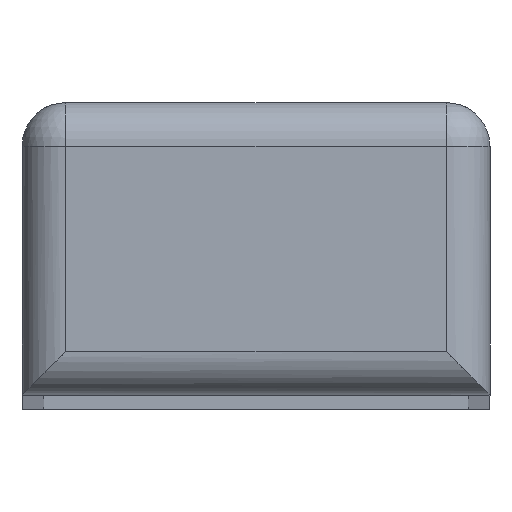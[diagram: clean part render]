
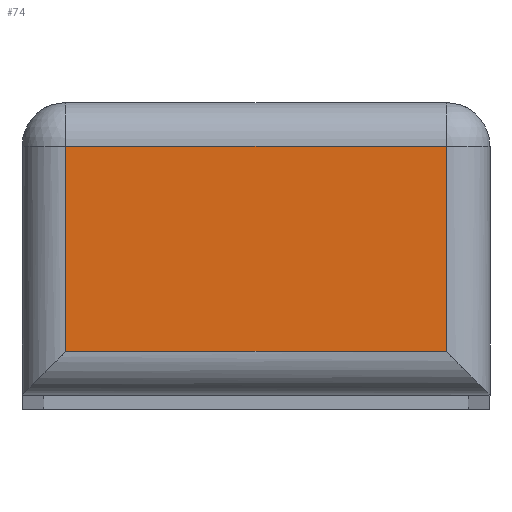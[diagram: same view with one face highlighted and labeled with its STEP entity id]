
A CAD part, top view. The second image highlights one B-rep face of the part: STEP entity #74.
In plain terms, the highlighted planar face has unit normal (0, 0, 1).
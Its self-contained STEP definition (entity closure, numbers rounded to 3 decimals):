
#68 = EDGE_CURVE ( 'NONE', #962, #963, #242, .T. ) ;
#69 = EDGE_CURVE ( 'NONE', #997, #962, #245, .T. ) ;
#70 = EDGE_CURVE ( 'NONE', #963, #970, #248, .T. ) ;
#71 = EDGE_CURVE ( 'NONE', #970, #997, #251, .T. ) ;
#74 = ADVANCED_FACE ( 'NONE', ( #803 ), #1054, .T. ) ;
#242 = LINE ( 'NONE', #243, #779 ) ;
#243 = CARTESIAN_POINT ( 'NONE',  ( -16., -3., 282. ) ) ;
#244 = DIRECTION ( 'NONE',  ( -1., 0., 0. ) ) ;
#245 = LINE ( 'NONE', #246, #764 ) ;
#246 = CARTESIAN_POINT ( 'NONE',  ( 13., -20., 282. ) ) ;
#247 = DIRECTION ( 'NONE',  ( 0., 1., 0. ) ) ;
#248 = LINE ( 'NONE', #249, #807 ) ;
#249 = CARTESIAN_POINT ( 'NONE',  ( -13., -20., 282. ) ) ;
#250 = DIRECTION ( 'NONE',  ( 0., -1., 0. ) ) ;
#251 = LINE ( 'NONE', #252, #796 ) ;
#252 = CARTESIAN_POINT ( 'NONE',  ( 16., -17., 282. ) ) ;
#253 = DIRECTION ( 'NONE',  ( 1., 0., 0. ) ) ;
#260 = CARTESIAN_POINT ( 'NONE',  ( -16., -20., 282. ) ) ;
#261 = DIRECTION ( 'NONE',  ( 0., 0., 1. ) ) ;
#262 = DIRECTION ( 'NONE',  ( 1., 0., 0. ) ) ;
#624 = CARTESIAN_POINT ( 'NONE',  ( 13., -3., 282. ) ) ;
#625 = CARTESIAN_POINT ( 'NONE',  ( -13., -3., 282. ) ) ;
#632 = CARTESIAN_POINT ( 'NONE',  ( -13., -17., 282. ) ) ;
#659 = CARTESIAN_POINT ( 'NONE',  ( 13., -17., 282. ) ) ;
#764 = VECTOR ( 'NONE', #247, 1000. ) ;
#779 = VECTOR ( 'NONE', #244, 1000. ) ;
#796 = VECTOR ( 'NONE', #253, 1000. ) ;
#803 = FACE_OUTER_BOUND ( 'NONE', #1047, .T. ) ;
#804 = AXIS2_PLACEMENT_3D ( 'NONE', #260, #261, #262 ) ;
#807 = VECTOR ( 'NONE', #250, 1000. ) ;
#962 = VERTEX_POINT ( 'NONE', #624 ) ;
#963 = VERTEX_POINT ( 'NONE', #625 ) ;
#970 = VERTEX_POINT ( 'NONE', #632 ) ;
#997 = VERTEX_POINT ( 'NONE', #659 ) ;
#1047 = EDGE_LOOP ( 'NONE', ( #1070, #1072, #1071, #1073 ) ) ;
#1054 = PLANE ( 'NONE',  #804 ) ;
#1070 = ORIENTED_EDGE ( 'NONE', *, *, #69, .T. ) ;
#1071 = ORIENTED_EDGE ( 'NONE', *, *, #70, .T. ) ;
#1072 = ORIENTED_EDGE ( 'NONE', *, *, #68, .T. ) ;
#1073 = ORIENTED_EDGE ( 'NONE', *, *, #71, .T. ) ;
